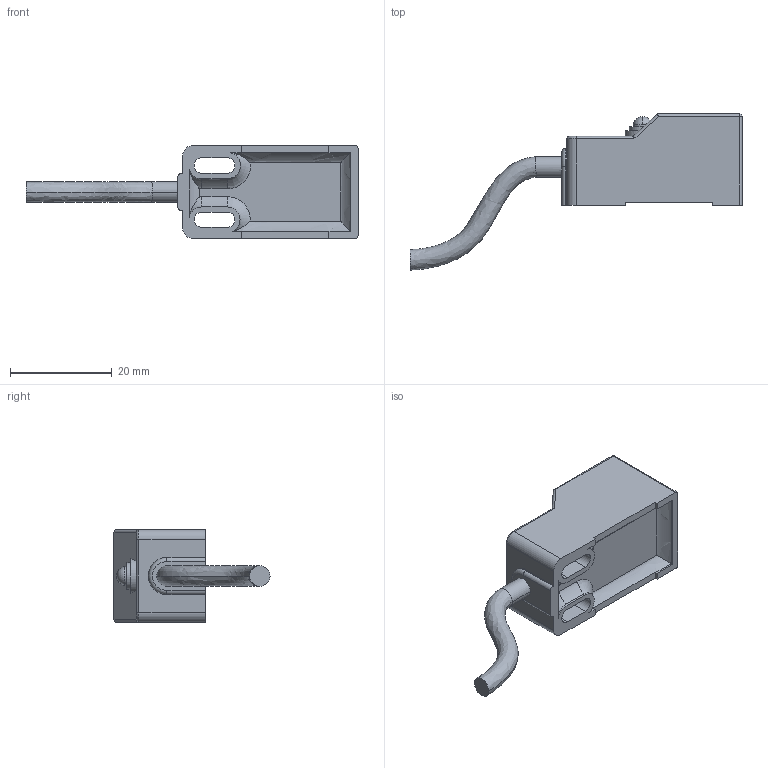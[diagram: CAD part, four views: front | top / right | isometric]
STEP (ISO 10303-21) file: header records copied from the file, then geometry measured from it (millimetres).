
FILE_DESCRIPTION((''),'2;1');
FILE_NAME('SL-H5MN1','2019-08-19T11:09:25',('ydh'),(''),'CREO PARAMETRIC BY PTC INC, 2019080','CREO PARAMETRIC BY PTC INC, 2019080','');
FILE_SCHEMA(('CONFIG_CONTROL_DESIGN'));
Length unit declared in the file: millimetre
Products named in the file (1): SL-H5MN1
Bounding box: 65.16 x 30.62 x 18.25 mm (x, y, z)
Volume: 9058 mm3; surface area: 3980 mm2
Topology: 1 solids, 1 shells, 129 faces, 325 edges, 207 vertices
Faces by surface type: plane 64, cylinder 46, bspline 8, revolution 4, sphere 4, torus 3
Entity records: 5168 total; most frequent: CARTESIAN_POINT 2034, ORIENTED_EDGE 646, DIRECTION 627, EDGE_CURVE 323, AXIS2_PLACEMENT_3D 213, VERTEX_POINT 207, VECTOR 197, LINE 197
